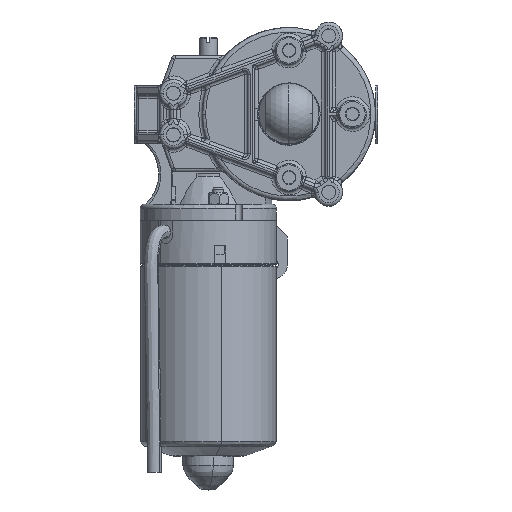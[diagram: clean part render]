
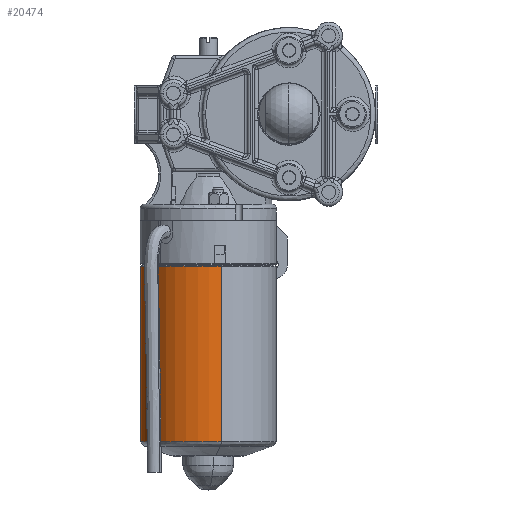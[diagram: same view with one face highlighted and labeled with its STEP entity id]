
A CAD part, top view. The second image highlights one B-rep face of the part: STEP entity #20474.
In plain terms, the highlighted cylindrical face has radius 29.35 mm (diameter 58.7 mm), a partial arc.
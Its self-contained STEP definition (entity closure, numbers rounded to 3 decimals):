
#2916 = DIRECTION ( 'NONE',  ( 0., 0., -1. ) ) ;
#2917 = CARTESIAN_POINT ( 'NONE',  ( -29.35, 0., 97.502 ) ) ;
#2918 = LINE ( 'NONE', #2917, #2975 ) ;
#2967 = DIRECTION ( 'NONE',  ( 0., 0., -1. ) ) ;
#2968 = VECTOR ( 'NONE', #2967, 1000. ) ;
#2969 = CARTESIAN_POINT ( 'NONE',  ( 29.35, 0., 97.502 ) ) ;
#2970 = LINE ( 'NONE', #2969, #2968 ) ;
#2975 = VECTOR ( 'NONE', #2916, 1000. ) ;
#3144 = CARTESIAN_POINT ( 'NONE',  ( 0., 0., 97.502 ) ) ;
#3145 = AXIS2_PLACEMENT_3D ( 'NONE', #3144, #3199, #3198 ) ;
#3147 = CYLINDRICAL_SURFACE ( 'NONE', #3145, 29.35 ) ;
#3148 = FACE_OUTER_BOUND ( 'NONE', #20475, .T. ) ;
#3198 = DIRECTION ( 'NONE',  ( -1., 0., 0. ) ) ;
#3199 = DIRECTION ( 'NONE',  ( 0., 0., -1. ) ) ;
#20308 = EDGE_CURVE ( 'NONE', #40171, #40233, #2918, .T. ) ;
#20323 = EDGE_CURVE ( 'NONE', #40245, #40234, #2970, .T. ) ;
#20474 = ADVANCED_FACE ( 'NONE', ( #3148 ), #3147, .T. ) ;
#20475 = EDGE_LOOP ( 'NONE', ( #20490, #20491, #20492, #20494 ) ) ;
#20490 = ORIENTED_EDGE ( 'NONE', *, *, #20323, .F. ) ;
#20491 = ORIENTED_EDGE ( 'NONE', *, *, #40240, .T. ) ;
#20492 = ORIENTED_EDGE ( 'NONE', *, *, #20308, .T. ) ;
#20494 = ORIENTED_EDGE ( 'NONE', *, *, #40231, .T. ) ;
#40171 = VERTEX_POINT ( 'NONE', #46523 ) ;
#40231 = EDGE_CURVE ( 'NONE', #40233, #40234, #46947, .T. ) ;
#40233 = VERTEX_POINT ( 'NONE', #46939 ) ;
#40234 = VERTEX_POINT ( 'NONE', #46937 ) ;
#40240 = EDGE_CURVE ( 'NONE', #40245, #40171, #46931, .T. ) ;
#40245 = VERTEX_POINT ( 'NONE', #46913 ) ;
#46523 = CARTESIAN_POINT ( 'NONE',  ( -29.35, 0., 76.336 ) ) ;
#46913 = CARTESIAN_POINT ( 'NONE',  ( 29.35, 0., 76.336 ) ) ;
#46925 = DIRECTION ( 'NONE',  ( 1., 0., 0. ) ) ;
#46927 = DIRECTION ( 'NONE',  ( 0., 0., -1. ) ) ;
#46928 = CARTESIAN_POINT ( 'NONE',  ( 0., 0., 76.336 ) ) ;
#46930 = AXIS2_PLACEMENT_3D ( 'NONE', #46928, #46927, #46925 ) ;
#46931 = CIRCLE ( 'NONE', #46930, 29.35 ) ;
#46937 = CARTESIAN_POINT ( 'NONE',  ( 29.35, 0., 0.473 ) ) ;
#46939 = CARTESIAN_POINT ( 'NONE',  ( -29.35, 0., 0.473 ) ) ;
#46940 = DIRECTION ( 'NONE',  ( 1., 0., 0. ) ) ;
#46942 = DIRECTION ( 'NONE',  ( 0., 0., 1. ) ) ;
#46944 = CARTESIAN_POINT ( 'NONE',  ( 0., 0., 0.473 ) ) ;
#46945 = AXIS2_PLACEMENT_3D ( 'NONE', #46944, #46942, #46940 ) ;
#46947 = CIRCLE ( 'NONE', #46945, 29.35 ) ;
